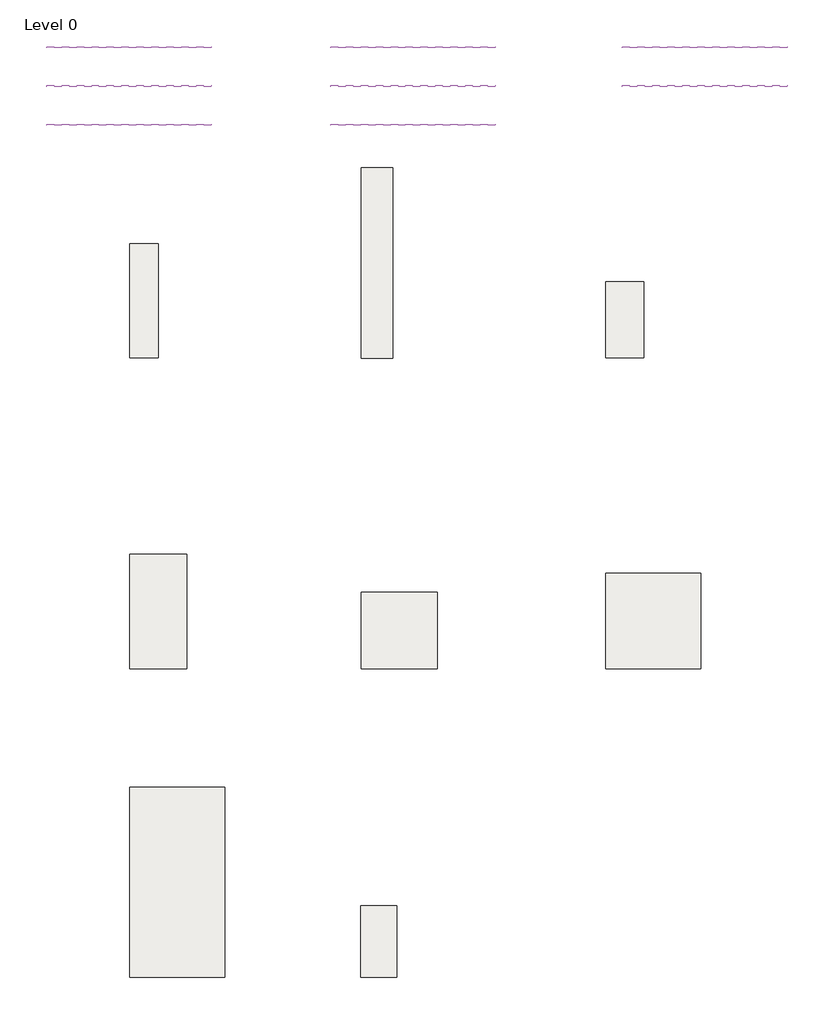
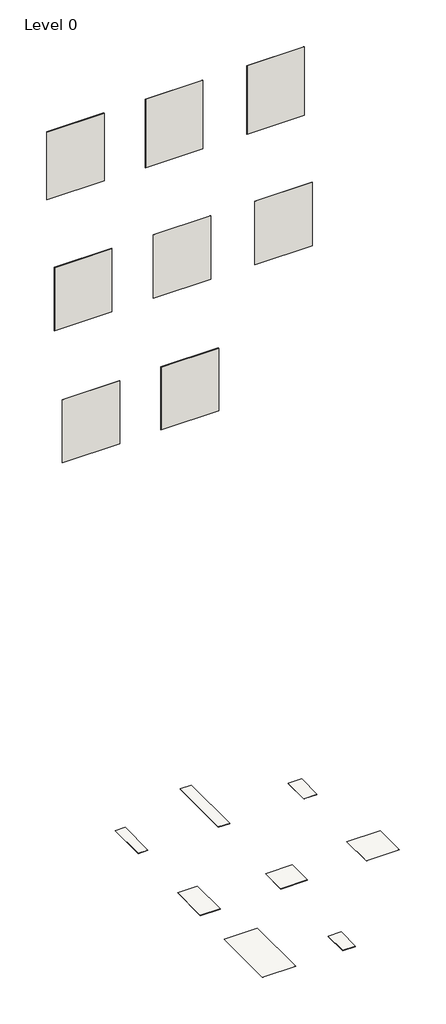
# One storey: 8 slabs, 8 walls.
"""IFC4 building model written with IfcOpenShell, lengths in millimetres."""

from ifc_helpers import new_model, si_unit, frame, origin, place, context, project, spatial, polyline, outline, extrude, element, save

model = new_model("IFC4")

# Units and contexts
model_context = context("Model", 3, world=origin())
ifc_project = project(units=[si_unit("LENGTHUNIT", "METRE", prefix="MILLI")], contexts=[model_context])

# Site, building, storey
site = spatial("IfcSite", under=ifc_project)
building = spatial("IfcBuilding", under=site)
storey = spatial("IfcBuildingStorey", under=building, Name="Level 0", Elevation=0.0)

# Slabs
placement = place(None, origin())
element("IfcSlab", 1, ObjectType="Floor_Tiles_Refin-Plant-Powder-30x60 NE95", at=placement, inside=storey, context=model_context, shape_type="SweptSolid", body=[
    extrude(outline(polyline([(10627.1861419, 6289.4623743), (10627.1861419, 5689.4623743), (10327.1861419, 5689.4623743), (10327.1861419, 6289.4623743), (10627.1861419, 6289.4623743)])), frame((0.0, 0.0, -10.0), z_axis=(0.0, 0.0, 1.0), x_axis=(1.0, 0.0, 0.0)), (0.0, 0.0, 1.0), 10.0),
])
element("IfcSlab", 2, ObjectType="Floor_Tiles_Refin-Plant-Powder-22.5x90 LZ20", at=placement, inside=storey, context=model_context, shape_type="SweptSolid", body=[
    extrude(outline(polyline([(6799.3752062, 6589.4623743), (6799.3752062, 5689.4623743), (6574.3752062, 5689.4623743), (6574.3752062, 6589.4623743), (6799.3752062, 6589.4623743)])), frame((0.0, 0.0, -10.0), z_axis=(0.0, 0.0, 1.0), x_axis=(1.0, 0.0, 0.0)), (0.0, 0.0, 1.0), 10.0),
])
element("IfcSlab", 3, ObjectType="Floor_Tiles_Refin-Plant-Powder-75x75 MD02", at=placement, inside=storey, context=model_context, shape_type="SweptSolid", body=[
    extrude(outline(polyline([(11077.1861419, 3989.4623743), (11077.1861419, 3239.4623743), (10327.1861419, 3239.4623743), (10327.1861419, 3989.4623743), (11077.1861419, 3989.4623743)])), frame((0.0, 0.0, -10.0), z_axis=(0.0, 0.0, 1.0), x_axis=(1.0, 0.0, 0.0)), (0.0, 0.0, 1.0), 10.0),
])
element("IfcSlab", 4, ObjectType="Floor_Tiles_Refin-Plant-Powder-60x60 LY24", at=placement, inside=storey, context=model_context, shape_type="SweptSolid", body=[
    extrude(outline(polyline([(8997.3924055, 3839.4623743), (8997.3924055, 3239.4623743), (8397.3924055, 3239.4623743), (8397.3924055, 3839.4623743), (8997.3924055, 3839.4623743)])), frame((0.0, 0.0, -10.0), z_axis=(0.0, 0.0, 1.0), x_axis=(1.0, 0.0, 0.0)), (0.0, 0.0, 1.0), 10.0),
])
element("IfcSlab", 5, ObjectType="Floor_Tiles_Refin-Plant-Powder-45x90 LY19", at=placement, inside=storey, context=model_context, shape_type="SweptSolid", body=[
    extrude(outline(polyline([(7024.3752062, 4139.4623743), (7024.3752062, 3239.4623743), (6574.3752062, 3239.4623743), (6574.3752062, 4139.4623743), (7024.3752062, 4139.4623743)])), frame((0.0, 0.0, -10.0), z_axis=(0.0, 0.0, 1.0), x_axis=(1.0, 0.0, 0.0)), (0.0, 0.0, 1.0), 10.0),
])
element("IfcSlab", 6, ObjectType="Floor_Tiles_Refin-Plant-Powder-75x150 LZ42", at=placement, inside=storey, context=model_context, shape_type="SweptSolid", body=[
    extrude(outline(polyline([(7322.6009331, 2303.4367235), (7322.6009331, 803.4367235), (6572.6009331, 803.4367235), (6572.6009331, 2303.4367235), (7322.6009331, 2303.4367235)])), frame((0.0, 0.0, -10.0), z_axis=(0.0, 0.0, 1.0), x_axis=(1.0, 0.0, 0.0)), (0.0, 0.0, 1.0), 10.0),
])
element("IfcSlab", 7, ObjectType="Floor_Tiles_Refin-Plant-Powder-25x150 LZ32", at=placement, inside=storey, context=model_context, shape_type="SweptSolid", body=[
    extrude(outline(polyline([(8647.3924055, 7188.4192064), (8647.3924055, 5688.4192064), (8397.3924055, 5688.4192064), (8397.3924055, 7188.4192064), (8647.3924055, 7188.4192064)])), frame((0.0, 0.0, -10.0), z_axis=(0.0, 0.0, 1.0), x_axis=(1.0, 0.0, 0.0)), (0.0, 0.0, 1.0), 10.0),
])
element("IfcSlab", 8, ObjectType="Floor_Tiles_Refin-Plant-Powder-Muretto-28.5x56.5 LY95", at=placement, inside=storey, context=model_context, shape_type="SweptSolid", body=[
    extrude(outline(polyline([(8680.6181323, 1368.4367235), (8680.6181323, 803.4367235), (8395.6181323, 803.4367235), (8395.6181323, 1368.4367235), (8680.6181323, 1368.4367235)])), frame((0.0, 0.0, -10.0), z_axis=(0.0, 0.0, 1.0), x_axis=(1.0, 0.0, 0.0)), (0.0, 0.0, 1.0), 10.0),
])

# Walls
element("IfcWall", 9, ObjectType="Wall_Tiles_Refin-Plant-Powder-25x150 LZ32", at=placement, inside=storey, context=model_context, shape_type="SweptSolid", body=[
    extrude(outline(polyline([(9457.3752062, 8132.3838631), (8157.3752062, 8132.3838631), (8157.3752062, 8142.3838631), (9457.3752062, 8142.3838631), (9457.3752062, 8132.3838631)])), frame((0.0, 0.0, 14387.6770443), z_axis=(0.0, 0.0, 1.0), x_axis=(1.0, 0.0, 0.0)), (0.0, 0.0, 1.0), 1641.7417352),
])
element("IfcWall", 10, ObjectType="Wall_Tiles_Refin-Plant-Powder-30x60 NE95", at=placement, inside=storey, context=model_context, shape_type="SweptSolid", body=[
    extrude(outline(polyline([(11757.3752062, 8132.3838631), (10457.3752062, 8132.3838631), (10457.3752062, 8142.3838631), (11757.3752062, 8142.3838631), (11757.3752062, 8132.3838631)])), frame((0.0, 0.0, 14387.6770443), z_axis=(0.0, 0.0, 1.0), x_axis=(1.0, 0.0, 0.0)), (0.0, 0.0, 1.0), 1641.7417352),
])
element("IfcWall", 11, ObjectType="Wall_Tiles_Refin-Plant-Powder-22.5x90 LZ20", at=placement, inside=storey, context=model_context, shape_type="SweptSolid", body=[
    extrude(outline(polyline([(7217.3752062, 8132.3838631), (5917.3752062, 8132.3838631), (5917.3752062, 8142.3838631), (7217.3752062, 8142.3838631), (7217.3752062, 8132.3838631)])), frame((0.0, 0.0, 14403.7267346), z_axis=(0.0, 0.0, 1.0), x_axis=(1.0, 0.0, 0.0)), (0.0, 0.0, 1.0), 1625.692045),
])
element("IfcWall", 12, ObjectType="Wall_Tiles_Refin-Plant-Powder-45x90 LY19", at=placement, inside=storey, context=model_context, shape_type="SweptSolid", body=[
    extrude(outline(polyline([(7217.3752062, 7827.3838631), (5917.3752062, 7827.3838631), (5917.3752062, 7837.3838631), (7217.3752062, 7837.3838631), (7217.3752062, 7827.3838631)])), frame((0.0, 0.0, 11452.5436262), z_axis=(0.0, 0.0, 1.0), x_axis=(1.0, 0.0, 0.0)), (0.0, 0.0, 1.0), 1513.1985566),
])
element("IfcWall", 13, ObjectType="Wall_Tiles_Refin-Plant-Powder-60x60 LY24", at=placement, inside=storey, context=model_context, shape_type="SweptSolid", body=[
    extrude(outline(polyline([(9457.3752062, 7827.3838631), (8157.3752062, 7827.3838631), (8157.3752062, 7837.3838631), (9457.3752062, 7837.3838631), (9457.3752062, 7827.3838631)])), frame((0.0, 0.0, 11452.5436262), z_axis=(0.0, 0.0, 1.0), x_axis=(1.0, 0.0, 0.0)), (0.0, 0.0, 1.0), 1513.1985566),
])
element("IfcWall", 14, ObjectType="Wall_Tiles_Refin-Plant-Powder-75x75 MD02", at=placement, inside=storey, context=model_context, shape_type="SweptSolid", body=[
    extrude(outline(polyline([(11757.3752062, 7827.3838631), (10457.3752062, 7827.3838631), (10457.3752062, 7837.3838631), (11757.3752062, 7837.3838631), (11757.3752062, 7827.3838631)])), frame((0.0, 0.0, 11452.5436262), z_axis=(0.0, 0.0, 1.0), x_axis=(1.0, 0.0, 0.0)), (0.0, 0.0, 1.0), 1513.1985566),
])
element("IfcWall", 15, ObjectType="Wall_Tiles_Refin-Plant-Powder-75x150 LZ42", at=placement, inside=storey, context=model_context, shape_type="SweptSolid", body=[
    extrude(outline(polyline([(7217.3752062, 7522.3838631), (5917.3752062, 7522.3838631), (5917.3752062, 7532.3838631), (7217.3752062, 7532.3838631), (7217.3752062, 7522.3838631)])), frame((0.0, 0.0, 8479.1027214), z_axis=(0.0, 0.0, 1.0), x_axis=(1.0, 0.0, 0.0)), (0.0, 0.0, 1.0), 1502.5740159),
])
element("IfcWall", 16, ObjectType="Wall_Tiles_Refin-Plant-Powder-Muretto-28.5x56.5 LY95", at=placement, inside=storey, context=model_context, shape_type="SweptSolid", body=[
    extrude(outline(polyline([(9457.3752062, 7522.3838631), (8157.3752062, 7522.3838631), (8157.3752062, 7532.3838631), (9457.3752062, 7532.3838631), (9457.3752062, 7522.3838631)])), frame((0.0, 0.0, 8479.1027214), z_axis=(0.0, 0.0, 1.0), x_axis=(1.0, 0.0, 0.0)), (0.0, 0.0, 1.0), 1502.5740159),
])

save(model, "model.ifc")
